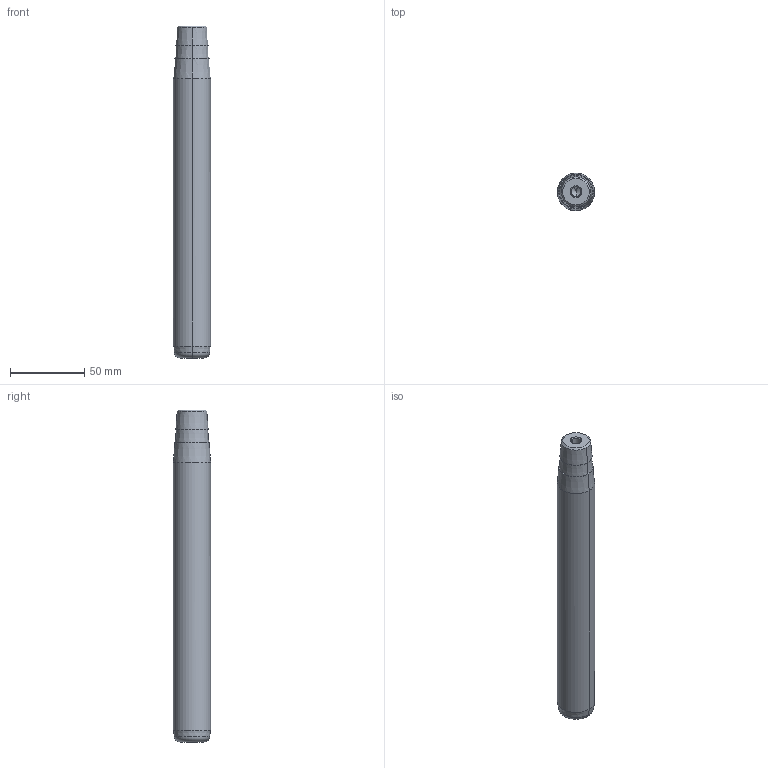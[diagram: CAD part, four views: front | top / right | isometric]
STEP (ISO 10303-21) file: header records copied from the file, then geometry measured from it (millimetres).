
FILE_DESCRIPTION(('CATIA V5 STEP Exchange'),'2;1');
FILE_NAME('C:\Users\Utente\Desktop\IO LAVORO\3D X SITO CF\X SITO\722\722-25x200x223.stp','2021-01-09T08:03:32+00:00',('none'),('none'),'CATIA Version 5 Release 20 GA (IN-10)','CATIA V5 STEP AP203','none');
FILE_SCHEMA(('CONFIG_CONTROL_DESIGN'));
Length unit declared in the file: millimetre
Products named in the file (1): 722-25x200x223
Bounding box: 25 x 25 x 223 mm (x, y, z)
Volume: 103524.5 mm3; surface area: 18900.9 mm2
Topology: 1 solids, 1 shells, 32 faces, 98 edges, 66 vertices
Faces by surface type: cone 22, cylinder 6, plane 2, torus 2
Entity records: 1166 total; most frequent: CARTESIAN_POINT 279, ORIENTED_EDGE 188, DIRECTION 148, EDGE_CURVE 94, AXIS2_PLACEMENT_3D 89, VERTEX_POINT 66, CIRCLE 56, EDGE_LOOP 34
